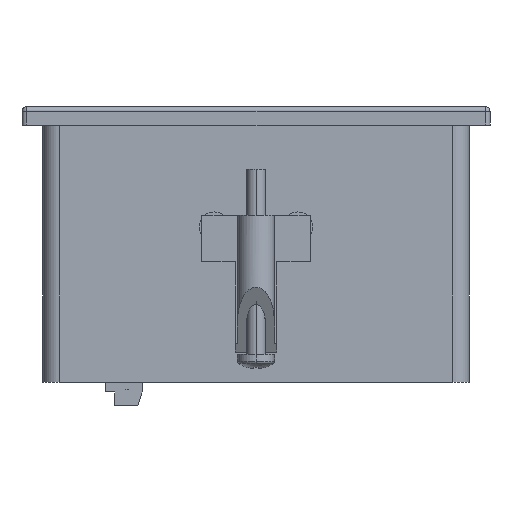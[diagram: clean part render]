
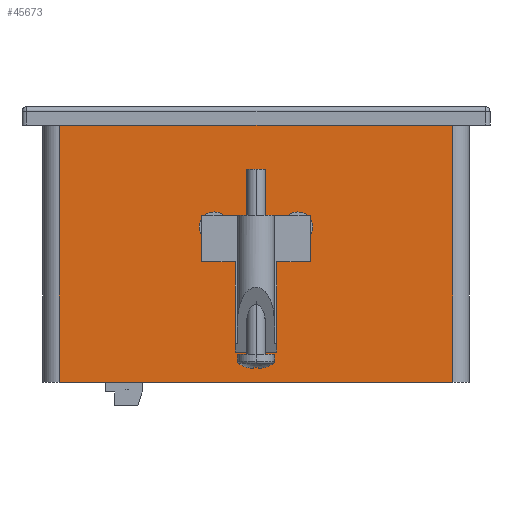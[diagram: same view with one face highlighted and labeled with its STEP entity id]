
A CAD part, left-side view. The second image highlights one B-rep face of the part: STEP entity #45673.
In plain terms, the highlighted planar face has unit normal (-1, 0, 0).
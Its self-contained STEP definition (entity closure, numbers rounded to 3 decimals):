
#230 = EDGE_CURVE ( 'NONE', #2551, #22043, #1964, .T. ) ;
#386 = CARTESIAN_POINT ( 'NONE',  ( -46., 46., 0. ) ) ;
#621 = CARTESIAN_POINT ( 'NONE',  ( -46., -9., -23. ) ) ;
#1964 = CIRCLE ( 'NONE', #35573, 3.25 ) ;
#2551 = VERTEX_POINT ( 'NONE', #7805 ) ;
#3898 = CIRCLE ( 'NONE', #38853, 3.25 ) ;
#4751 = DIRECTION ( 'NONE',  ( 0., -1., 0. ) ) ;
#5541 = CARTESIAN_POINT ( 'NONE',  ( -46., 46., -56.5 ) ) ;
#5895 = VERTEX_POINT ( 'NONE', #34464 ) ;
#6021 = ORIENTED_EDGE ( 'NONE', *, *, #18189, .T. ) ;
#6394 = LINE ( 'NONE', #8159, #17303 ) ;
#6777 = VERTEX_POINT ( 'NONE', #7863 ) ;
#7780 = EDGE_LOOP ( 'NONE', ( #21863, #14115 ) ) ;
#7805 = CARTESIAN_POINT ( 'NONE',  ( -46., -12.25, -23. ) ) ;
#7863 = CARTESIAN_POINT ( 'NONE',  ( -46., -42.5, -56.5 ) ) ;
#8159 = CARTESIAN_POINT ( 'NONE',  ( -46., 42.5, -56.5 ) ) ;
#8568 = EDGE_CURVE ( 'NONE', #5895, #28006, #10672, .T. ) ;
#9023 = EDGE_LOOP ( 'NONE', ( #32959, #13651, #40126, #6021 ) ) ;
#9029 = CARTESIAN_POINT ( 'NONE',  ( -46., -9., -23. ) ) ;
#9648 = PLANE ( 'NONE',  #16064 ) ;
#9827 = AXIS2_PLACEMENT_3D ( 'NONE', #35454, #10835, #39591 ) ;
#10076 = LINE ( 'NONE', #386, #41619 ) ;
#10672 = CIRCLE ( 'NONE', #9827, 3.25 ) ;
#10835 = DIRECTION ( 'NONE',  ( -1., 0., 0. ) ) ;
#11133 = FACE_OUTER_BOUND ( 'NONE', #9023, .T. ) ;
#12776 = VECTOR ( 'NONE', #26961, 1000. ) ;
#13136 = DIRECTION ( 'NONE',  ( 0., -1., 0. ) ) ;
#13651 = ORIENTED_EDGE ( 'NONE', *, *, #47203, .T. ) ;
#14115 = ORIENTED_EDGE ( 'NONE', *, *, #41867, .F. ) ;
#16064 = AXIS2_PLACEMENT_3D ( 'NONE', #5541, #34047, #38397 ) ;
#16142 = VERTEX_POINT ( 'NONE', #47806 ) ;
#17062 = DIRECTION ( 'NONE',  ( 0., 1., 0. ) ) ;
#17303 = VECTOR ( 'NONE', #32884, 1000. ) ;
#18189 = EDGE_CURVE ( 'NONE', #16142, #48407, #6394, .T. ) ;
#19103 = CARTESIAN_POINT ( 'NONE',  ( -46., 42.5, -56.5 ) ) ;
#19122 = DIRECTION ( 'NONE',  ( 0., 1., 0. ) ) ;
#21863 = ORIENTED_EDGE ( 'NONE', *, *, #8568, .F. ) ;
#22043 = VERTEX_POINT ( 'NONE', #30531 ) ;
#22102 = FACE_BOUND ( 'NONE', #7780, .T. ) ;
#22116 = CARTESIAN_POINT ( 'NONE',  ( -46., 12.25, -23. ) ) ;
#22492 = CIRCLE ( 'NONE', #39790, 3.25 ) ;
#22846 = CARTESIAN_POINT ( 'NONE',  ( -46., 9., -23. ) ) ;
#25899 = EDGE_LOOP ( 'NONE', ( #42760, #53123 ) ) ;
#26961 = DIRECTION ( 'NONE',  ( 0., 0., 1. ) ) ;
#26989 = DIRECTION ( 'NONE',  ( 0., -1., 0. ) ) ;
#27538 = VERTEX_POINT ( 'NONE', #31626 ) ;
#28006 = VERTEX_POINT ( 'NONE', #22116 ) ;
#29344 = DIRECTION ( 'NONE',  ( -1., 0., 0. ) ) ;
#29706 = EDGE_CURVE ( 'NONE', #27538, #16142, #10076, .T. ) ;
#30498 = EDGE_CURVE ( 'NONE', #6777, #48407, #53087, .T. ) ;
#30531 = CARTESIAN_POINT ( 'NONE',  ( -46., -5.75, -23. ) ) ;
#31150 = VECTOR ( 'NONE', #19122, 1000. ) ;
#31626 = CARTESIAN_POINT ( 'NONE',  ( -46., -42.5, 0. ) ) ;
#31688 = FACE_BOUND ( 'NONE', #25899, .T. ) ;
#32884 = DIRECTION ( 'NONE',  ( 0., 0., -1. ) ) ;
#32959 = ORIENTED_EDGE ( 'NONE', *, *, #30498, .F. ) ;
#33310 = LINE ( 'NONE', #47498, #12776 ) ;
#34047 = DIRECTION ( 'NONE',  ( 1., 0., 0. ) ) ;
#34464 = CARTESIAN_POINT ( 'NONE',  ( -46., 5.75, -23. ) ) ;
#35454 = CARTESIAN_POINT ( 'NONE',  ( -46., 9., -23. ) ) ;
#35573 = AXIS2_PLACEMENT_3D ( 'NONE', #621, #29344, #4751 ) ;
#37765 = DIRECTION ( 'NONE',  ( -1., 0., 0. ) ) ;
#38397 = DIRECTION ( 'NONE',  ( 0., 1., 0. ) ) ;
#38853 = AXIS2_PLACEMENT_3D ( 'NONE', #9029, #37765, #13136 ) ;
#39591 = DIRECTION ( 'NONE',  ( 0., -1., 0. ) ) ;
#39790 = AXIS2_PLACEMENT_3D ( 'NONE', #22846, #51644, #26989 ) ;
#40126 = ORIENTED_EDGE ( 'NONE', *, *, #29706, .T. ) ;
#41619 = VECTOR ( 'NONE', #17062, 1000. ) ;
#41867 = EDGE_CURVE ( 'NONE', #28006, #5895, #22492, .T. ) ;
#42760 = ORIENTED_EDGE ( 'NONE', *, *, #230, .F. ) ;
#43286 = EDGE_CURVE ( 'NONE', #22043, #2551, #3898, .T. ) ;
#45673 = ADVANCED_FACE ( 'NONE', ( #22102, #31688, #11133 ), #9648, .F. ) ;
#47203 = EDGE_CURVE ( 'NONE', #6777, #27538, #33310, .T. ) ;
#47498 = CARTESIAN_POINT ( 'NONE',  ( -46., -42.5, -56.5 ) ) ;
#47806 = CARTESIAN_POINT ( 'NONE',  ( -46., 42.5, 0. ) ) ;
#47921 = CARTESIAN_POINT ( 'NONE',  ( -46., 46., -56.5 ) ) ;
#48407 = VERTEX_POINT ( 'NONE', #19103 ) ;
#51644 = DIRECTION ( 'NONE',  ( -1., 0., 0. ) ) ;
#53087 = LINE ( 'NONE', #47921, #31150 ) ;
#53123 = ORIENTED_EDGE ( 'NONE', *, *, #43286, .F. ) ;
